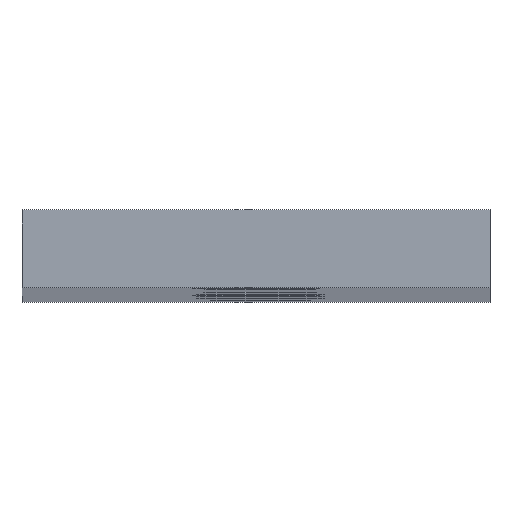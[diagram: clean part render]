
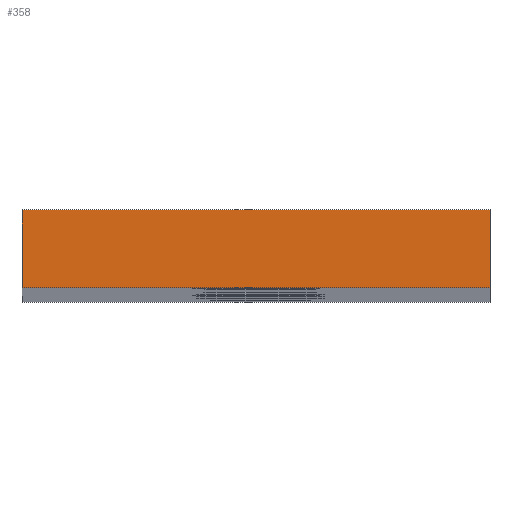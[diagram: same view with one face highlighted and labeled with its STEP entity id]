
A CAD part, top view. The second image highlights one B-rep face of the part: STEP entity #358.
In plain terms, the highlighted planar face has unit normal (0, 0, 1).
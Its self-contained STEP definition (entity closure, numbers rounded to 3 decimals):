
#41=PLANE('',#420);
#58=FACE_OUTER_BOUND('',#97,.T.);
#97=EDGE_LOOP('',(#324,#325,#326,#327));
#110=LINE('',#595,#133);
#114=LINE('',#603,#137);
#117=LINE('',#609,#140);
#120=LINE('',#614,#143);
#133=VECTOR('',#503,10.);
#137=VECTOR('',#509,10.);
#140=VECTOR('',#514,10.);
#143=VECTOR('',#519,10.);
#189=VERTEX_POINT('',#593);
#190=VERTEX_POINT('',#594);
#193=VERTEX_POINT('',#602);
#195=VERTEX_POINT('',#608);
#230=EDGE_CURVE('',#189,#190,#110,.T.);
#234=EDGE_CURVE('',#190,#193,#114,.T.);
#237=EDGE_CURVE('',#193,#195,#117,.T.);
#240=EDGE_CURVE('',#195,#189,#120,.T.);
#324=ORIENTED_EDGE('',*,*,#240,.T.);
#325=ORIENTED_EDGE('',*,*,#230,.T.);
#326=ORIENTED_EDGE('',*,*,#234,.T.);
#327=ORIENTED_EDGE('',*,*,#237,.T.);
#358=ADVANCED_FACE('',(#58),#41,.T.);
#420=AXIS2_PLACEMENT_3D('',#616,#521,#522);
#503=DIRECTION('',(1.,0.,0.));
#509=DIRECTION('',(0.,1.,0.));
#514=DIRECTION('',(-1.,0.,0.));
#519=DIRECTION('',(0.,-1.,0.));
#521=DIRECTION('center_axis',(0.,0.,1.));
#522=DIRECTION('ref_axis',(1.,0.,0.));
#593=CARTESIAN_POINT('',(-67.7,0.,0.));
#594=CARTESIAN_POINT('',(-37.7,0.,0.));
#595=CARTESIAN_POINT('',(-67.7,0.,0.));
#602=CARTESIAN_POINT('',(-37.7,5.,0.));
#603=CARTESIAN_POINT('',(-37.7,0.,0.));
#608=CARTESIAN_POINT('',(-67.7,5.,0.));
#609=CARTESIAN_POINT('',(-37.7,5.,0.));
#614=CARTESIAN_POINT('',(-67.7,5.,0.));
#616=CARTESIAN_POINT('Origin',(-52.7,2.5,0.));
